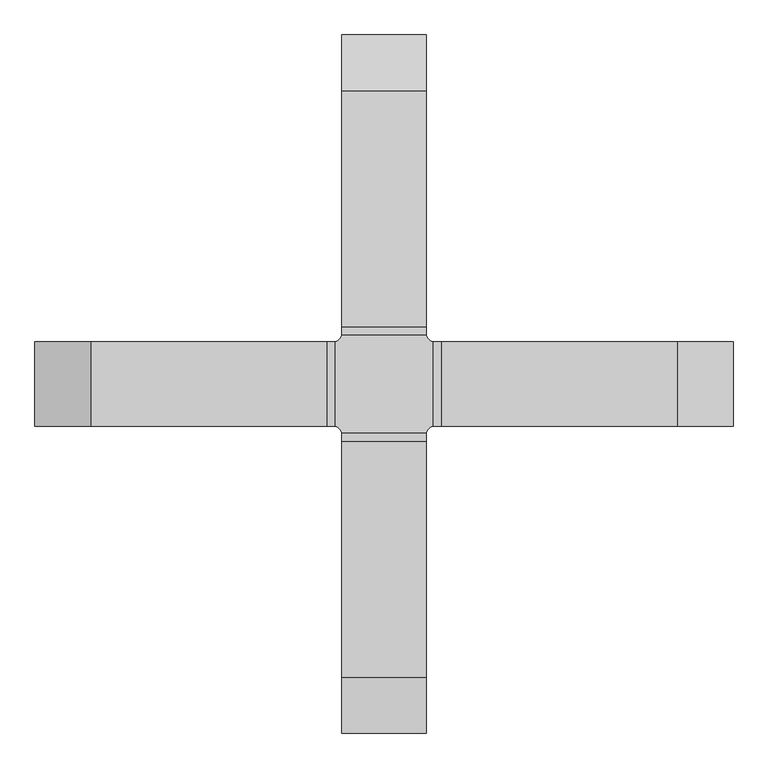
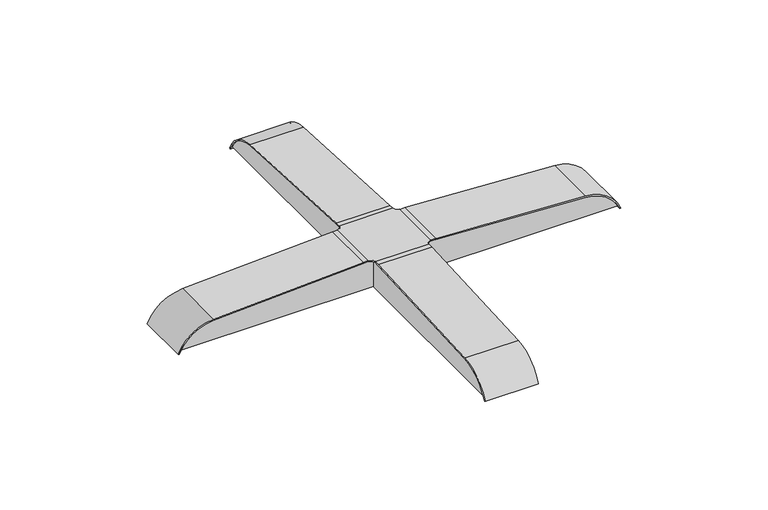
"""IFC4 building model written with IfcOpenShell, lengths in millimetres: furniture geometry."""

from ifc_helpers import new_model, si_unit, point, frame, origin, place, context, project, spatial, polyline, circle_curve, ellipse_curve, trimmed, source, transform, mapped, element, save
from ifc_brep_helpers import plane_surface, cylinder_surface, revolved_surface, advanced_brep


def furniture_97fad042(model_context):
    return source(origin(), model_context, "Body", "AdvancedBrep", [
        advanced_brep(
        [(0.0, 468.1814543, 39.7002), (0.0, 459.9345457, 39.7002), (0.0, 464.058, 39.7002), (0.0, 468.1814543, 14.7574), (0.0, 459.9345457, 14.7574), (0.0, 472.0971, 14.7574), (0.0, 456.0189, 14.7574), (0.0, 472.0971, 10.2849279), (0.0, 456.0189, 10.2849279), (0.0, 482.0101589, 0.0), (0.0, 446.1058411, 0.0), (0.0, 446.1058411, 3.5984853), (0.0, 482.0101589, 3.5984853), (0.0, 464.058, 0.0)],
        [
            (0, 1, circle_curve(frame((0.0, 464.058, 39.7002), z_axis=(0.0, 0.0, 1.0), x_axis=(0.0, -1.0, 0.0)), 4.1234543)),
            (1, 2),
            (2, 0),
            (1, 0, circle_curve(frame((0.0, 464.058, 39.7002), z_axis=(0.0, 0.0, 1.0), x_axis=(0.0, -1.0, 0.0)), 4.1234543)),
            (3, 4, circle_curve(frame((0.0, 464.058, 14.7574), z_axis=(0.0, 0.0, 1.0), x_axis=(0.0, -1.0, 0.0)), 4.1234543)),
            (4, 1),
            (0, 3),
            (4, 3, circle_curve(frame((0.0, 464.058, 14.7574), z_axis=(0.0, 0.0, 1.0), x_axis=(0.0, -1.0, 0.0)), 4.1234543)),
            (5, 6, circle_curve(frame((0.0, 464.058, 14.7574), z_axis=(0.0, 0.0, 1.0), x_axis=(0.0, -1.0, 0.0)), 8.0391)),
            (6, 4),
            (3, 5),
            (6, 5, circle_curve(frame((0.0, 464.058, 14.7574), z_axis=(0.0, 0.0, 1.0), x_axis=(0.0, -1.0, 0.0)), 8.0391)),
            (7, 8, circle_curve(frame((0.0, 464.058, 10.2849279), z_axis=(0.0, 0.0, 1.0), x_axis=(0.0, -1.0, 0.0)), 8.0391)),
            (8, 6),
            (5, 7),
            (8, 7, circle_curve(frame((0.0, 464.058, 10.2849279), z_axis=(0.0, 0.0, 1.0), x_axis=(0.0, -1.0, 0.0)), 8.0391)),
            (9, 10, circle_curve(frame((0.0, 464.058, 0.0), z_axis=(0.0, 0.0, 1.0), x_axis=(0.0, -1.0, 0.0)), 17.9521589)),
            (10, 11),
            (11, 12, circle_curve(frame((0.0, 464.058, 3.5984853), z_axis=(0.0, 0.0, -1.0), x_axis=(0.0, -1.0, 0.0)), 17.9521589)),
            (12, 9),
            (10, 9, circle_curve(frame((0.0, 464.058, 0.0), z_axis=(0.0, 0.0, 1.0), x_axis=(0.0, -1.0, 0.0)), 17.9521589)),
            (12, 11, circle_curve(frame((0.0, 464.058, 3.5984853), z_axis=(0.0, 0.0, -1.0), x_axis=(0.0, -1.0, 0.0)), 17.9521589)),
            (13, 10),
            (9, 13),
            (11, 8, circle_curve(frame((0.0, 446.538795, 13.6481832), z_axis=(1.0, 0.0, 0.0), x_axis=(0.0, -1.0, 0.0)), 10.0590197)),
            (7, 12, circle_curve(frame((0.0, 481.577205, 13.6481832), z_axis=(1.0, 0.0, 0.0), x_axis=(0.0, 1.0, 0.0)), 10.0590197)),
        ],
        [
            plane_surface(frame((0.0, 464.058, 39.7002), z_axis=(0.0, 0.0, 1.0), x_axis=(0.0, -1.0, 0.0))),
            cylinder_surface(frame((0.0, 464.058, 39.7002), z_axis=(0.0, 0.0, -1.0), x_axis=(0.0, -1.0, 0.0)), 4.1234543),
            plane_surface(frame((0.0, 464.058, 14.7574), z_axis=(0.0, 0.0, 1.0), x_axis=(0.0, -1.0, 0.0))),
            cylinder_surface(frame((0.0, 464.058, 39.7002), z_axis=(0.0, 0.0, -1.0), x_axis=(0.0, -1.0, 0.0)), 8.0391),
            cylinder_surface(frame((0.0, 464.058, 39.7002), z_axis=(0.0, 0.0, -1.0), x_axis=(0.0, -1.0, 0.0)), 17.9521589),
            plane_surface(frame((0.0, 464.058, 0.0), z_axis=(0.0, 0.0, -1.0), x_axis=(0.0, -1.0, 0.0))),
            revolved_surface(trimmed(ellipse_curve(frame((0.0, 446.538795, 13.6481832), z_axis=(-1.0, 0.0, 0.0), x_axis=(0.0, -1.0, 0.0)), 10.0590197, 10.0590197), [point((0.0, 456.0189, 10.2849279))], [point((0.0, 446.1058411, 3.5984853))], True, "CARTESIAN"), (0.0, 464.058, 39.7002), (0.0, 0.0, -1.0)),
        ],
        [
            (0, [[1, 2, 3]]),
            (0, [[4, -3, -2]]),
            (1, [[5, 6, -1, 7]]),
            (1, [[8, -7, -4, -6]]),
            (2, [[9, 10, -5, 11]]),
            (2, [[12, -11, -8, -10]]),
            (3, [[13, 14, -9, 15]]),
            (3, [[16, -15, -12, -14]]),
            (4, [[17, 18, 19, 20]]),
            (4, [[21, -20, 22, -18]]),
            (5, [[23, -17, 24]]),
            (5, [[-24, -21, -23]]),
            (6, [[-19, 25, -13, 26]]),
            (6, [[-22, -26, -16, -25]]),
        ],
    ),
        advanced_brep(
        [(60.325, 420.6378786, 74.5825817), (60.325, 498.1978983, 20.2927555), (60.325, 500.6635132, 21.3402677), (60.325, 420.7780817, 77.2578166), (60.325, 82.318215, 94.9957465), (60.325, 70.2140123, 95.3127062), (60.325, 70.2140123, 92.6338), (60.325, 82.1780119, 92.3205116), (60.325, -420.6378786, 74.5825817), (60.325, -82.1780119, 92.3205116), (60.325, -70.2140123, 92.6338), (60.325, -70.2140123, 95.3127062), (60.325, -82.318215, 94.9957465), (60.325, -420.7780817, 77.2578166), (60.325, -500.6635132, 21.3402677), (60.325, -498.1978983, 20.2927555), (-60.325, 420.6378786, 74.5825817), (-60.325, 82.1780119, 92.3205116), (-60.325, 70.2140123, 92.6338), (-60.325, 70.2140123, 95.3127062), (-60.325, 82.318215, 94.9957465), (-60.325, 420.7780817, 77.2578166), (-60.325, 500.6635132, 21.3402677), (-60.325, 498.1978983, 20.2927555), (-60.325, -420.6378786, 74.5825817), (-60.325, -498.1978983, 20.2927555), (-60.325, -500.6635132, 21.3402677), (-60.325, -420.7780817, 77.2578166), (-60.325, -82.318215, 94.9957465), (-60.325, -70.2140123, 95.3127062), (-60.325, -70.2140123, 92.6338), (-60.325, -82.1780119, 92.3205116), (-70.2648498, -60.6285662, 95.3127062), (-60.639995, -70.2140123, 95.3127062), (60.639995, -70.2140123, 95.3127062), (70.1631748, -60.6516433, 95.3127062), (70.1631748, -60.325, 95.3127062), (70.1631748, 60.325, 95.3127062), (70.1631748, 60.6516433, 95.3127062), (60.639995, 70.2140123, 95.3127062), (-60.639995, 70.2140123, 95.3127062), (-70.2648498, 60.6285662, 95.3127062), (-70.2648498, 60.325, 95.3127062), (-70.2648498, -60.325, 95.3127062), (-70.2648498, 60.6285662, 92.6338), (-60.639995, 70.2140123, 92.6338), (60.639995, 70.2140123, 92.6338), (70.1631748, 60.6516433, 92.6338), (70.1631748, 60.325, 92.6338), (70.1631748, -60.325, 92.6338), (70.1631748, -60.6516433, 92.6338), (60.639995, -70.2140123, 92.6338), (-60.639995, -70.2140123, 92.6338), (-70.2648498, -60.6285662, 92.6338), (-70.2648498, -60.325, 92.6338), (-70.2648498, 60.325, 92.6338), (-420.688716, 60.325, 74.5825817), (-498.2487358, 60.325, 20.2927555), (-500.7143507, 60.325, 21.3402677), (-420.8289192, 60.325, 77.2578166), (-82.3690525, 60.325, 94.9957465), (-82.2288494, 60.325, 92.3205116), (420.5870411, 60.325, 74.5825817), (82.1271744, 60.325, 92.3205116), (82.2673775, 60.325, 94.9957465), (420.7272442, 60.325, 77.2578166), (500.6126758, 60.325, 21.3402677), (498.1470609, 60.325, 20.2927555), (-420.688716, -60.325, 74.5825817), (-82.2288494, -60.325, 92.3205116), (-82.3690525, -60.325, 94.9957465), (-420.8289192, -60.325, 77.2578166), (-500.7143507, -60.325, 21.3402677), (-498.2487358, -60.325, 20.2927555), (420.5870411, -60.325, 74.5825817), (498.1470609, -60.325, 20.2927555), (500.6126758, -60.325, 21.3402677), (420.7272442, -60.325, 77.2578166), (82.2673775, -60.325, 94.9957465), (82.1271744, -60.325, 92.3205116)],
        [
            (0, 1, circle_curve(frame((60.325, 415.9616501, -14.6451736), z_axis=(-1.0, 0.0, 0.0), x_axis=(0.0, -1.0, 0.0)), 89.3502066)),
            (1, 2),
            (2, 3, circle_curve(frame((60.325, 415.9616501, -14.6451736), z_axis=(1.0, 0.0, 0.0), x_axis=(0.0, -1.0, 0.0)), 92.0291128)),
            (3, 4),
            (4, 5, circle_curve(frame((60.325, 70.2140123, -135.9662), z_axis=(1.0, 0.0, 0.0), x_axis=(0.0, -1.0, 0.0)), 231.2789063)),
            (5, 6),
            (6, 7, circle_curve(frame((60.325, 70.2140123, -135.9662), z_axis=(-1.0, 0.0, 0.0), x_axis=(0.0, -1.0, 0.0)), 228.6)),
            (7, 0),
            (8, 9),
            (9, 10, circle_curve(frame((60.325, -70.2140123, -135.9662), z_axis=(-1.0, 0.0, 0.0), x_axis=(0.0, 1.0, 0.0)), 228.6)),
            (10, 11),
            (11, 12, circle_curve(frame((60.325, -70.2140123, -135.9662), z_axis=(1.0, 0.0, 0.0), x_axis=(0.0, 1.0, 0.0)), 231.2789063)),
            (12, 13),
            (13, 14, circle_curve(frame((60.325, -415.9616501, -14.6451736), z_axis=(1.0, 0.0, 0.0), x_axis=(0.0, 1.0, 0.0)), 92.0291128)),
            (14, 15),
            (15, 8, circle_curve(frame((60.325, -415.9616501, -14.6451736), z_axis=(-1.0, 0.0, 0.0), x_axis=(0.0, 1.0, 0.0)), 89.3502066)),
            (16, 17),
            (17, 18, circle_curve(frame((-60.325, 70.2140123, -135.9662), z_axis=(1.0, 0.0, 0.0), x_axis=(0.0, -1.0, 0.0)), 228.6)),
            (18, 19),
            (19, 20, circle_curve(frame((-60.325, 70.2140123, -135.9662), z_axis=(-1.0, 0.0, 0.0), x_axis=(0.0, -1.0, 0.0)), 231.2789063)),
            (20, 21),
            (21, 22, circle_curve(frame((-60.325, 415.9616501, -14.6451736), z_axis=(-1.0, 0.0, 0.0), x_axis=(0.0, -1.0, 0.0)), 92.0291128)),
            (22, 23),
            (23, 16, circle_curve(frame((-60.325, 415.9616501, -14.6451736), z_axis=(1.0, 0.0, 0.0), x_axis=(0.0, -1.0, 0.0)), 89.3502066)),
            (24, 25, circle_curve(frame((-60.325, -415.9616501, -14.6451736), z_axis=(1.0, 0.0, 0.0), x_axis=(0.0, 1.0, 0.0)), 89.3502066)),
            (25, 26),
            (26, 27, circle_curve(frame((-60.325, -415.9616501, -14.6451736), z_axis=(-1.0, 0.0, 0.0), x_axis=(0.0, 1.0, 0.0)), 92.0291128)),
            (27, 28),
            (28, 29, circle_curve(frame((-60.325, -70.2140123, -135.9662), z_axis=(-1.0, 0.0, 0.0), x_axis=(0.0, 1.0, 0.0)), 231.2789063)),
            (29, 30),
            (30, 31, circle_curve(frame((-60.325, -70.2140123, -135.9662), z_axis=(1.0, 0.0, 0.0), x_axis=(0.0, 1.0, 0.0)), 228.6)),
            (31, 24),
            (7, 17),
            (16, 0),
            (23, 1),
            (22, 2),
            (32, 33, circle_curve(frame((-73.025, -73.025, 95.3127062), z_axis=(0.0, 0.0, -1.0), x_axis=(1.0, 0.0, 0.0)), 12.7)),
            (33, 29),
            (29, 11),
            (11, 34),
            (34, 35, circle_curve(frame((73.025, -73.025, 95.3127062), z_axis=(0.0, 0.0, -1.0), x_axis=(1.0, 0.0, 0.0)), 12.7)),
            (35, 36),
            (36, 37),
            (37, 38),
            (38, 39, circle_curve(frame((73.025, 73.025, 95.3127062), z_axis=(0.0, 0.0, -1.0), x_axis=(1.0, 0.0, 0.0)), 12.7)),
            (39, 5),
            (5, 19),
            (19, 40),
            (40, 41, circle_curve(frame((-73.025, 73.025, 95.3127062), z_axis=(0.0, 0.0, -1.0), x_axis=(1.0, 0.0, 0.0)), 12.7)),
            (41, 42),
            (42, 43),
            (43, 32),
            (44, 45, circle_curve(frame((-73.025, 73.025, 92.6338), z_axis=(0.0, 0.0, 1.0), x_axis=(1.0, 0.0, 0.0)), 12.7)),
            (45, 18),
            (18, 6),
            (6, 46),
            (46, 47, circle_curve(frame((73.025, 73.025, 92.6338), z_axis=(0.0, 0.0, 1.0), x_axis=(1.0, 0.0, 0.0)), 12.7)),
            (47, 48),
            (48, 49),
            (49, 50),
            (50, 51, circle_curve(frame((73.025, -73.025, 92.6338), z_axis=(0.0, 0.0, 1.0), x_axis=(1.0, 0.0, 0.0)), 12.7)),
            (51, 10),
            (10, 30),
            (30, 52),
            (52, 53, circle_curve(frame((-73.025, -73.025, 92.6338), z_axis=(0.0, 0.0, 1.0), x_axis=(1.0, 0.0, 0.0)), 12.7)),
            (53, 54),
            (54, 55),
            (55, 44),
            (32, 53),
            (52, 33),
            (34, 51),
            (50, 35),
            (38, 47),
            (46, 39),
            (40, 45),
            (44, 41),
            (21, 3),
            (20, 4),
            (8, 24),
            (31, 9),
            (28, 12),
            (27, 13),
            (26, 14),
            (25, 15),
            (43, 54),
            (55, 42),
            (49, 36),
            (37, 48),
            (56, 57, circle_curve(frame((-416.0124875, 60.325, -14.6451736), z_axis=(0.0, -1.0, 0.0), x_axis=(1.0, 0.0, 0.0)), 89.3502066)),
            (57, 58),
            (58, 59, circle_curve(frame((-416.0124875, 60.325, -14.6451736), z_axis=(0.0, 1.0, 0.0), x_axis=(1.0, 0.0, 0.0)), 92.0291128)),
            (59, 60),
            (60, 42, circle_curve(frame((-70.2648498, 60.325, -135.9662), z_axis=(0.0, 1.0, 0.0), x_axis=(1.0, 0.0, 0.0)), 231.2789063)),
            (55, 61, circle_curve(frame((-70.2648498, 60.325, -135.9662), z_axis=(0.0, -1.0, 0.0), x_axis=(1.0, 0.0, 0.0)), 228.6)),
            (61, 56),
            (62, 63),
            (63, 48, circle_curve(frame((70.1631748, 60.325, -135.9662), z_axis=(0.0, -1.0, 0.0), x_axis=(-1.0, 0.0, 0.0)), 228.6)),
            (37, 64, circle_curve(frame((70.1631748, 60.325, -135.9662), z_axis=(0.0, 1.0, 0.0), x_axis=(-1.0, 0.0, 0.0)), 231.2789063)),
            (64, 65),
            (65, 66, circle_curve(frame((415.9108126, 60.325, -14.6451736), z_axis=(0.0, 1.0, 0.0), x_axis=(-1.0, 0.0, 0.0)), 92.0291128)),
            (66, 67),
            (67, 62, circle_curve(frame((415.9108126, 60.325, -14.6451736), z_axis=(0.0, -1.0, 0.0), x_axis=(-1.0, 0.0, 0.0)), 89.3502066)),
            (68, 69),
            (69, 54, circle_curve(frame((-70.2648498, -60.325, -135.9662), z_axis=(0.0, 1.0, 0.0), x_axis=(1.0, 0.0, 0.0)), 228.6)),
            (43, 70, circle_curve(frame((-70.2648498, -60.325, -135.9662), z_axis=(0.0, -1.0, 0.0), x_axis=(1.0, 0.0, 0.0)), 231.2789063)),
            (70, 71),
            (71, 72, circle_curve(frame((-416.0124875, -60.325, -14.6451736), z_axis=(0.0, -1.0, 0.0), x_axis=(1.0, 0.0, 0.0)), 92.0291128)),
            (72, 73),
            (73, 68, circle_curve(frame((-416.0124875, -60.325, -14.6451736), z_axis=(0.0, 1.0, 0.0), x_axis=(1.0, 0.0, 0.0)), 89.3502066)),
            (74, 75, circle_curve(frame((415.9108126, -60.325, -14.6451736), z_axis=(0.0, 1.0, 0.0), x_axis=(-1.0, 0.0, 0.0)), 89.3502066)),
            (75, 76),
            (76, 77, circle_curve(frame((415.9108126, -60.325, -14.6451736), z_axis=(0.0, -1.0, 0.0), x_axis=(-1.0, 0.0, 0.0)), 92.0291128)),
            (77, 78),
            (78, 36, circle_curve(frame((70.1631748, -60.325, -135.9662), z_axis=(0.0, -1.0, 0.0), x_axis=(-1.0, 0.0, 0.0)), 231.2789063)),
            (49, 79, circle_curve(frame((70.1631748, -60.325, -135.9662), z_axis=(0.0, 1.0, 0.0), x_axis=(-1.0, 0.0, 0.0)), 228.6)),
            (79, 74),
            (56, 68),
            (73, 57),
            (72, 58),
            (71, 59),
            (70, 60),
            (69, 61),
            (62, 74),
            (79, 63),
            (78, 64),
            (77, 65),
            (76, 66),
            (75, 67),
        ],
        [
            plane_surface(frame((60.325, 326.6114435, -14.6451736), z_axis=(1.0, 0.0, 0.0), x_axis=(0.0, 0.0, 1.0))),
            plane_surface(frame((-60.325, 326.6114435, -14.6451736), z_axis=(-1.0, 0.0, 0.0), x_axis=(0.0, 0.0, -1.0))),
            plane_surface(frame((60.325, 82.1780119, 92.3205116), z_axis=(0.0, -0.05233595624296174, -0.998629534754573), x_axis=(-1.0, 0.0, 0.0))),
            revolved_surface(polyline([(-60.325, 326.61144349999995, -14.6451736), (60.325, 326.61144349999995, -14.6451736)]), (-60.325, 415.9616501, -14.6451736), (-1.0, 0.0, 0.0)),
            plane_surface(frame((60.325, 498.1978983, 20.2927555), z_axis=(0.0, 0.3910223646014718, -0.9203811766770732), x_axis=(-1.0, 0.0, 0.0))),
            plane_surface(frame((-70.2648498, -60.325, 95.3127062), z_axis=(0.0, 0.0, 1.0), x_axis=(0.0, -1.0, 0.0))),
            plane_surface(frame((-70.2648498, -60.325, 92.6338), z_axis=(0.0, 0.0, -1.0), x_axis=(0.0, 1.0, 0.0))),
            revolved_surface(polyline([(-60.325, -73.025, 92.6338), (-60.325, -73.025, 95.3127062)]), (-73.025, -73.025, 92.6338), (0.0, 0.0, -1.0)),
            revolved_surface(polyline([(85.72500000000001, -73.025, 92.6338), (85.72500000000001, -73.025, 95.3127062)]), (73.025, -73.025, 92.6338), (0.0, 0.0, -1.0)),
            revolved_surface(polyline([(85.72500000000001, 73.025, 92.6338), (85.72500000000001, 73.025, 95.3127062)]), (73.025, 73.025, 92.6338), (0.0, 0.0, -1.0)),
            revolved_surface(polyline([(-60.325, 73.025, 92.6338), (-60.325, 73.025, 95.3127062)]), (-73.025, 73.025, 92.6338), (0.0, 0.0, -1.0)),
            cylinder_surface(frame((-60.325, 415.9616501, -14.6451736), z_axis=(1.0, 0.0, 0.0), x_axis=(0.0, -1.0, 0.0)), 92.0291128),
            plane_surface(frame((60.325, 420.7780817, 77.2578166), z_axis=(0.0, 0.05233595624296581, 0.9986295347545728), x_axis=(-1.0, 0.0, 0.0))),
            cylinder_surface(frame((-60.325, 70.2140123, -135.9662), z_axis=(1.0, 0.0, 0.0), x_axis=(0.0, -1.0, 0.0)), 231.2789063),
            revolved_surface(polyline([(-60.325, -158.3859877, -135.9662), (60.325, -158.3859877, -135.9662)]), (-60.325, 70.2140123, -135.9662), (-1.0, 0.0, 0.0)),
            plane_surface(frame((60.325, -420.6378786, 74.5825817), z_axis=(0.0, 0.05233595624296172, -0.998629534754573), x_axis=(-1.0, 0.0, 0.0))),
            revolved_surface(polyline([(-60.325, 158.3859877, -135.9662), (60.325, 158.3859877, -135.9662)]), (0.0, -70.2140123, -135.9662), (-1.0, 0.0, 0.0)),
            cylinder_surface(frame((0.0, -70.2140123, -135.9662), z_axis=(1.0, 0.0, 0.0), x_axis=(0.0, 1.0, 0.0)), 231.2789063),
            plane_surface(frame((60.325, -82.318215, 94.9957465), z_axis=(0.0, -0.05233595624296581, 0.9986295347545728), x_axis=(-1.0, 0.0, 0.0))),
            cylinder_surface(frame((0.0, -415.9616501, -14.6451736), z_axis=(1.0, 0.0, 0.0), x_axis=(0.0, 1.0, 0.0)), 92.0291128),
            plane_surface(frame((60.325, -500.6635132, 21.3402677), z_axis=(0.0, -0.3910223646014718, -0.9203811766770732), x_axis=(-1.0, 0.0, 0.0))),
            revolved_surface(polyline([(-60.325, -326.61144349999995, -14.6451736), (60.325, -326.61144349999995, -14.6451736)]), (0.0, -415.9616501, -14.6451736), (-1.0, 0.0, 0.0)),
            plane_surface(frame((-70.2648498, 60.6285662, 95.3127062), z_axis=(-1.0, 0.0, 0.0), x_axis=(0.0, 0.0, -1.0))),
            plane_surface(frame((-60.639995, -70.2140123, 95.3127062), z_axis=(0.0, -1.0, 0.0), x_axis=(0.0, 0.0, -1.0))),
            plane_surface(frame((70.1631748, -60.6516433, 95.3127062), z_axis=(1.0, 0.0, 0.0), x_axis=(0.0, 0.0, -1.0))),
            plane_surface(frame((60.639995, 70.2140123, 95.3127062), z_axis=(0.0, 1.0, 0.0), x_axis=(0.0, 0.0, -1.0))),
            plane_surface(frame((-326.662281, 60.325, -14.6451736), z_axis=(0.0, 1.0, 0.0), x_axis=(0.0, 0.0, 1.0))),
            plane_surface(frame((-326.662281, -60.325, -14.6451736), z_axis=(0.0, -1.0, 0.0), x_axis=(0.0, 0.0, -1.0))),
            revolved_surface(polyline([(-326.66228090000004, -60.325, -14.6451736), (-326.66228090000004, 60.325, -14.6451736)]), (-416.0124875, -60.325, -14.6451736), (0.0, -1.0, 0.0)),
            plane_surface(frame((-498.2487358, 60.325, 20.2927555), z_axis=(-0.3910223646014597, 0.0, -0.9203811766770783), x_axis=(0.0, -1.0, 0.0))),
            cylinder_surface(frame((-416.0124875, -60.325, -14.6451736), z_axis=(0.0, 1.0, 0.0), x_axis=(1.0, 0.0, 0.0)), 92.0291128),
            plane_surface(frame((-420.8289192, 60.325, 77.2578166), z_axis=(-0.05233595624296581, 0.0, 0.9986295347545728), x_axis=(0.0, -1.0, 0.0))),
            cylinder_surface(frame((-70.2648498, -60.325, -135.9662), z_axis=(0.0, 1.0, 0.0), x_axis=(1.0, 0.0, 0.0)), 231.2789063),
            revolved_surface(polyline([(158.3351502, -60.325, -135.9662), (158.3351502, 60.325, -135.9662)]), (-70.2648498, -60.325, -135.9662), (0.0, -1.0, 0.0)),
            plane_surface(frame((-82.2288494, 60.325, 92.3205116), z_axis=(0.05233595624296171, 0.0, -0.998629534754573), x_axis=(0.0, -1.0, 0.0))),
            plane_surface(frame((420.5870411, 60.325, 74.5825817), z_axis=(-0.0523359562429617, 0.0, -0.998629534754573), x_axis=(0.0, -1.0, 0.0))),
            revolved_surface(polyline([(-158.4368252, -60.325, -135.9662), (-158.4368252, 60.325, -135.9662)]), (70.1631748, 0.0, -135.9662), (0.0, -1.0, 0.0)),
            cylinder_surface(frame((70.1631748, 0.0, -135.9662), z_axis=(0.0, 1.0, 0.0), x_axis=(-1.0, 0.0, 0.0)), 231.2789063),
            plane_surface(frame((82.2673775, 60.325, 94.9957465), z_axis=(0.05233595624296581, 0.0, 0.9986295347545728), x_axis=(0.0, -1.0, 0.0))),
            cylinder_surface(frame((415.9108126, 0.0, -14.6451736), z_axis=(0.0, 1.0, 0.0), x_axis=(-1.0, 0.0, 0.0)), 92.0291128),
            plane_surface(frame((500.6126758, 60.325, 21.3402677), z_axis=(0.3910223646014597, 0.0, -0.9203811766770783), x_axis=(0.0, -1.0, 0.0))),
            revolved_surface(polyline([(326.560606, -60.325, -14.6451736), (326.560606, 60.325, -14.6451736)]), (415.9108126, 0.0, -14.6451736), (0.0, -1.0, 0.0)),
        ],
        [
            (0, [[1, 2, 3, 4, 5, 6, 7, 8]]),
            (0, [[9, 10, 11, 12, 13, 14, 15, 16]]),
            (1, [[17, 18, 19, 20, 21, 22, 23, 24]]),
            (1, [[25, 26, 27, 28, 29, 30, 31, 32]]),
            (2, [[-8, 33, -17, 34]]),
            (3, [[-1, -34, -24, 35]]),
            (4, [[-2, -35, -23, 36]]),
            (5, [[37, 38, 39, 40, 41, 42, 43, 44, 45, 46, 47, 48, 49, 50, 51, 52]]),
            (6, [[53, 54, 55, 56, 57, 58, 59, 60, 61, 62, 63, 64, 65, 66, 67, 68]]),
            (7, [[-37, 69, -65, 70]]),
            (8, [[-41, 71, -61, 72]]),
            (9, [[-45, 73, -57, 74]]),
            (10, [[-49, 75, -53, 76]]),
            (11, [[-3, -36, -22, 77]]),
            (12, [[-4, -77, -21, 78]]),
            (13, [[-5, -78, -20, -47]]),
            (14, [[-7, -55, -18, -33]]),
            (15, [[-9, 79, -32, 80]]),
            (16, [[-10, -80, -31, -63]]),
            (17, [[-12, -39, -29, 81]]),
            (18, [[-13, -81, -28, 82]]),
            (19, [[-14, -82, -27, 83]]),
            (20, [[-15, -83, -26, 84]]),
            (21, [[-16, -84, -25, -79]]),
            (22, [[-69, -52, 85, -66]]),
            (22, [[-76, -68, 86, -50]]),
            (23, [[-70, -64, -30, -38]]),
            (23, [[-71, -40, -11, -62]]),
            (24, [[-72, -60, 87, -42]]),
            (24, [[-73, -44, 88, -58]]),
            (25, [[-74, -56, -6, -46]]),
            (25, [[-75, -48, -19, -54]]),
            (26, [[89, 90, 91, 92, 93, -86, 94, 95]]),
            (26, [[96, 97, -88, 98, 99, 100, 101, 102]]),
            (27, [[103, 104, -85, 105, 106, 107, 108, 109]]),
            (27, [[110, 111, 112, 113, 114, -87, 115, 116]]),
            (28, [[-89, 117, -109, 118]]),
            (29, [[-90, -118, -108, 119]]),
            (30, [[-91, -119, -107, 120]]),
            (31, [[-92, -120, -106, 121]]),
            (32, [[-93, -121, -105, -51]]),
            (33, [[-94, -67, -104, 122]]),
            (34, [[-95, -122, -103, -117]]),
            (35, [[-96, 123, -116, 124]]),
            (36, [[-97, -124, -115, -59]]),
            (37, [[-98, -43, -114, 125]]),
            (38, [[-99, -125, -113, 126]]),
            (39, [[-100, -126, -112, 127]]),
            (40, [[-101, -127, -111, 128]]),
            (41, [[-102, -128, -110, -123]]),
        ],
    ),
        advanced_brep(
        [(54.4710938, -493.593262, 28.6377062), (38.1, -493.593262, 28.6377062), (38.1, -493.593262, 25.9588), (57.15, -493.593262, 25.9588), (57.15, -493.593262, 29.590471), (54.4710938, -493.593262, 29.590471), (57.15, -57.15, 25.9588), (57.15, -57.15, 92.6338), (57.15, -70.2140123, 92.6338), (57.15, -82.1780119, 92.3205116), (57.15, -420.6378786, 74.5825817), (54.4710938, -54.4710937, 28.6377062), (54.4710938, -420.6378786, 74.5825817), (54.4710938, -82.1780119, 92.3205116), (54.4710938, -70.2140123, 92.6338), (54.4710938, -54.4710937, 92.6338), (493.6110748, -54.4710938, 28.6377062), (493.6110748, -38.1, 28.6377062), (38.1, -38.1, 28.6377062), (38.1, -38.1, 25.9588), (493.6110748, -38.1, 25.9588), (493.6110748, -57.15, 25.9588), (493.6110748, -54.4710938, 29.5591956), (493.6110748, -57.15, 29.5591956), (420.6378786, -57.15, 74.5825817), (82.1780119, -57.15, 92.3205116), (70.2140123, -57.15, 92.6338), (70.2140123, -54.4710937, 92.6338), (82.1780119, -54.4710937, 92.3205116), (420.6378786, -54.4710938, 74.5825817)],
        [
            (0, 1),
            (1, 2),
            (2, 3),
            (3, 4),
            (4, 5),
            (5, 0),
            (3, 6),
            (6, 7),
            (7, 8),
            (8, 9, circle_curve(frame((57.15, -70.2140123, -135.9662), z_axis=(1.0, 0.0, 0.0), x_axis=(0.0, 1.0, 0.0)), 228.6)),
            (9, 10),
            (10, 4, circle_curve(frame((57.15, -415.9616501, -14.6451736), z_axis=(1.0, 0.0, 0.0), x_axis=(0.0, 1.0, 0.0)), 89.3502066)),
            (11, 0),
            (5, 12, circle_curve(frame((54.4710938, -415.9616501, -14.6451736), z_axis=(-1.0, 0.0, 0.0), x_axis=(0.0, 1.0, 0.0)), 89.3502066)),
            (12, 13),
            (13, 14, circle_curve(frame((54.4710938, -70.2140123, -135.9662), z_axis=(-1.0, 0.0, 0.0), x_axis=(0.0, 1.0, 0.0)), 228.6)),
            (14, 15),
            (15, 11),
            (11, 16),
            (16, 17),
            (17, 18),
            (18, 1),
            (18, 19),
            (19, 2),
            (19, 20),
            (20, 21),
            (21, 6),
            (16, 22),
            (22, 23),
            (23, 21),
            (20, 17),
            (23, 24, circle_curve(frame((415.9616501, -57.15, -14.6451736), z_axis=(0.0, -1.0, 0.0), x_axis=(-1.0, 0.0, 0.0)), 89.3502066)),
            (24, 25),
            (25, 26, circle_curve(frame((70.2140123, -57.15, -135.9662), z_axis=(0.0, -1.0, 0.0), x_axis=(-1.0, 0.0, 0.0)), 228.6)),
            (26, 7),
            (15, 27),
            (27, 28, circle_curve(frame((70.2140123, -54.4710937, -135.9662), z_axis=(0.0, 1.0, 0.0), x_axis=(-1.0, 0.0, 0.0)), 228.6)),
            (28, 29),
            (29, 22, circle_curve(frame((415.9616501, -54.4710938, -14.6451736), z_axis=(0.0, 1.0, 0.0), x_axis=(-1.0, 0.0, 0.0)), 89.3502066)),
            (8, 14),
            (13, 9),
            (26, 27),
            (10, 12),
            (25, 28),
            (24, 29),
        ],
        [
            plane_surface(frame((57.15, -493.593262, 0.0), z_axis=(0.0, -1.0, 0.0), x_axis=(0.0, 0.0, 1.0))),
            plane_surface(frame((57.15, -493.593262, 25.9588), z_axis=(1.0, 0.0, 0.0), x_axis=(0.0, 1.0, 0.0))),
            plane_surface(frame((54.4710938, -493.593262, 95.01505), z_axis=(-1.0, 0.0, 0.0), x_axis=(0.0, 1.0, 0.0))),
            plane_surface(frame((54.4710938, -493.593262, 28.6377062), z_axis=(0.0, 0.0, 1.0), x_axis=(0.0, 1.0, 0.0))),
            plane_surface(frame((38.1, -493.593262, 28.6377062), z_axis=(-1.0, 0.0, 0.0), x_axis=(0.0, 1.0, 0.0))),
            plane_surface(frame((38.1, -493.593262, 25.9588), z_axis=(0.0, 0.0, -1.0), x_axis=(0.0, 1.0, 0.0))),
            plane_surface(frame((493.6110748, -57.15, 0.0), z_axis=(1.0, 0.0, 0.0), x_axis=(0.0, 0.0, 1.0))),
            plane_surface(frame((57.15, -57.15, 25.9588), z_axis=(0.0, -1.0, 0.0), x_axis=(1.0, 0.0, 0.0))),
            plane_surface(frame((54.4710938, -54.4710937, 95.01505), z_axis=(0.0, 1.0, 0.0), x_axis=(1.0, 0.0, 0.0))),
            plane_surface(frame((38.1, -38.1, 28.6377062), z_axis=(0.0, 1.0, 0.0), x_axis=(1.0, 0.0, 0.0))),
            cylinder_surface(frame((101.5819282, -70.2140123, -135.9662), z_axis=(1.0, 0.0, 0.0), x_axis=(0.0, 1.0, 0.0)), 228.6),
            plane_surface(frame((-95.25, 70.2140123, 92.6338), z_axis=(0.0, 0.0, 1.0), x_axis=(1.0, 0.0, 0.0))),
            cylinder_surface(frame((101.5819282, -415.9616501, -14.6451736), z_axis=(1.0, 0.0, 0.0), x_axis=(0.0, 1.0, 0.0)), 89.3502066),
            plane_surface(frame((-95.25, -82.1780119, 92.3205116), z_axis=(0.0, -0.052335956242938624, 0.9986295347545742), x_axis=(1.0, 0.0, 0.0))),
            cylinder_surface(frame((70.2140123, 101.5819282, -135.9662), z_axis=(0.0, 1.0, 0.0), x_axis=(-1.0, 0.0, 0.0)), 228.6),
            plane_surface(frame((82.1780119, -95.25, 92.3205116), z_axis=(0.05233595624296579, 0.0, 0.9986295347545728), x_axis=(0.0, 1.0, 0.0))),
            cylinder_surface(frame((415.9616501, 101.5819282, -14.6451736), z_axis=(0.0, 1.0, 0.0), x_axis=(-1.0, 0.0, 0.0)), 89.3502066),
        ],
        [
            (0, [[1, 2, 3, 4, 5, 6]]),
            (1, [[7, 8, 9, 10, 11, 12, -4]]),
            (2, [[13, -6, 14, 15, 16, 17, 18]]),
            (3, [[-1, -13, 19, 20, 21, 22]]),
            (4, [[-2, -22, 23, 24]]),
            (5, [[-3, -24, 25, 26, 27, -7]]),
            (6, [[-20, 28, 29, 30, -26, 31]]),
            (7, [[-27, -30, 32, 33, 34, 35, -8]]),
            (8, [[-19, -18, 36, 37, 38, 39, -28]]),
            (9, [[-21, -31, -25, -23]]),
            (10, [[40, -16, 41, -10]]),
            (11, [[-40, -9, -35, 42, -36, -17]]),
            (12, [[43, -14, -5, -12]]),
            (13, [[-43, -11, -41, -15]]),
            (14, [[44, -37, -42, -34]]),
            (15, [[-44, -33, 45, -38]]),
            (16, [[-45, -32, -29, -39]]),
        ],
    ),
        advanced_brep(
        [(-57.15, -493.593262, 25.9588), (-38.1, -493.593262, 25.9588), (-38.1, -493.593262, 28.6377062), (-54.4710937, -493.593262, 28.6377062), (-54.4710937, -493.593262, 29.590471), (-57.15, -493.593262, 29.590471), (-57.15, -57.15, 25.9588), (-57.15, -420.6378786, 74.5825817), (-57.15, -82.1780119, 92.3205116), (-57.15, -70.2140123, 92.6338), (-57.15, -57.15, 92.6338), (-54.4710937, -54.4710937, 28.6377062), (-54.4710937, -54.4710937, 92.6338), (-54.4710937, -70.2140123, 92.6338), (-54.4710937, -82.1780119, 92.3205116), (-54.4710937, -420.6378786, 74.5825817), (-38.1, -38.1, 28.6377062), (-493.6110748, -38.1, 28.6377062), (-493.6110748, -54.4710938, 28.6377062), (-38.1, -38.1, 25.9588), (-493.6110748, -57.15, 25.9588), (-493.6110748, -38.1, 25.9588), (-493.6110748, -57.15, 29.5591956), (-493.6110748, -54.4710938, 29.5591956), (-70.2140123, -57.15, 92.6338), (-82.1780119, -57.15, 92.3205116), (-420.6378786, -57.15, 74.5825817), (-420.6378786, -54.4710938, 74.5825817), (-82.1780119, -54.4710937, 92.3205116), (-70.2140123, -54.4710937, 92.6338)],
        [
            (0, 1),
            (1, 2),
            (2, 3),
            (3, 4),
            (4, 5),
            (5, 0),
            (6, 0),
            (5, 7, circle_curve(frame((-57.15, -415.9616501, -14.6451736), z_axis=(-1.0, 0.0, 0.0), x_axis=(0.0, 1.0, 0.0)), 89.3502066)),
            (7, 8),
            (8, 9, circle_curve(frame((-57.15, -70.2140123, -135.9662), z_axis=(-1.0, 0.0, 0.0), x_axis=(0.0, 1.0, 0.0)), 228.6)),
            (9, 10),
            (10, 6),
            (3, 11),
            (11, 12),
            (12, 13),
            (13, 14, circle_curve(frame((-54.4710937, -70.2140123, -135.9662), z_axis=(1.0, 0.0, 0.0), x_axis=(0.0, 1.0, 0.0)), 228.6)),
            (14, 15),
            (15, 4, circle_curve(frame((-54.4710937, -415.9616501, -14.6451736), z_axis=(1.0, 0.0, 0.0), x_axis=(0.0, 1.0, 0.0)), 89.3502066)),
            (2, 16),
            (16, 17),
            (17, 18),
            (18, 11),
            (1, 19),
            (19, 16),
            (6, 20),
            (20, 21),
            (21, 19),
            (17, 21),
            (20, 22),
            (22, 23),
            (23, 18),
            (10, 24),
            (24, 25, circle_curve(frame((-70.2140123, -57.15, -135.9662), z_axis=(0.0, -1.0, 0.0), x_axis=(1.0, 0.0, 0.0)), 228.6)),
            (25, 26),
            (26, 22, circle_curve(frame((-415.9616501, -57.15, -14.6451736), z_axis=(0.0, -1.0, 0.0), x_axis=(1.0, 0.0, 0.0)), 89.3502066)),
            (23, 27, circle_curve(frame((-415.9616501, -54.4710938, -14.6451736), z_axis=(0.0, 1.0, 0.0), x_axis=(1.0, 0.0, 0.0)), 89.3502066)),
            (27, 28),
            (28, 29, circle_curve(frame((-70.2140123, -54.4710937, -135.9662), z_axis=(0.0, 1.0, 0.0), x_axis=(1.0, 0.0, 0.0)), 228.6)),
            (29, 12),
            (13, 9),
            (8, 14),
            (29, 24),
            (15, 7),
            (28, 25),
            (26, 27),
        ],
        [
            plane_surface(frame((-57.15, -493.593262, 0.0), z_axis=(0.0, -1.0, 0.0), x_axis=(0.0, 0.0, 1.0))),
            plane_surface(frame((-57.15, -493.593262, 95.01505), z_axis=(-1.0, 0.0, 0.0), x_axis=(0.0, 1.0, 0.0))),
            plane_surface(frame((-54.4710937, -493.593262, 28.6377062), z_axis=(1.0, 0.0, 0.0), x_axis=(0.0, 1.0, 0.0))),
            plane_surface(frame((-38.1, -493.593262, 28.6377062), z_axis=(0.0, 0.0, 1.0), x_axis=(0.0, 1.0, 0.0))),
            plane_surface(frame((-38.1, -493.593262, 25.9588), z_axis=(1.0, 0.0, 0.0), x_axis=(0.0, 1.0, 0.0))),
            plane_surface(frame((-57.15, -493.593262, 25.9588), z_axis=(0.0, 0.0, -1.0), x_axis=(0.0, 1.0, 0.0))),
            plane_surface(frame((-493.6110748, -57.15, 0.0), z_axis=(-1.0, 0.0, 0.0), x_axis=(0.0, 0.0, 1.0))),
            plane_surface(frame((-57.15, -57.15, 95.01505), z_axis=(0.0, -1.0, 0.0), x_axis=(-1.0, 0.0, 0.0))),
            plane_surface(frame((-54.4710937, -54.4710937, 28.6377062), z_axis=(0.0, 1.0, 0.0), x_axis=(-1.0, 0.0, 0.0))),
            plane_surface(frame((-38.1, -38.1, 25.9588), z_axis=(0.0, 1.0, 0.0), x_axis=(-1.0, 0.0, 0.0))),
            cylinder_surface(frame((101.5819282, -70.2140123, -135.9662), z_axis=(1.0, 0.0, 0.0), x_axis=(0.0, 1.0, 0.0)), 228.6),
            plane_surface(frame((-95.25, 70.2140123, 92.6338), z_axis=(0.0, 0.0, 1.0), x_axis=(1.0, 0.0, 0.0))),
            cylinder_surface(frame((101.5819282, -415.9616501, -14.6451736), z_axis=(1.0, 0.0, 0.0), x_axis=(0.0, 1.0, 0.0)), 89.3502066),
            plane_surface(frame((-95.25, -82.1780119, 92.3205116), z_axis=(0.0, -0.052335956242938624, 0.9986295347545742), x_axis=(1.0, 0.0, 0.0))),
            cylinder_surface(frame((-70.2140123, 101.5819282, -135.9662), z_axis=(0.0, 1.0, 0.0), x_axis=(1.0, 0.0, 0.0)), 228.6),
            cylinder_surface(frame((-415.9616501, 101.5819282, -14.6451736), z_axis=(0.0, 1.0, 0.0), x_axis=(1.0, 0.0, 0.0)), 89.3502066),
            plane_surface(frame((-420.6378786, -95.25, 74.5825817), z_axis=(-0.052335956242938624, 0.0, 0.9986295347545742), x_axis=(0.0, 1.0, 0.0))),
        ],
        [
            (0, [[1, 2, 3, 4, 5, 6]]),
            (1, [[7, -6, 8, 9, 10, 11, 12]]),
            (2, [[13, 14, 15, 16, 17, 18, -4]]),
            (3, [[-3, 19, 20, 21, 22, -13]]),
            (4, [[-2, 23, 24, -19]]),
            (5, [[-1, -7, 25, 26, 27, -23]]),
            (6, [[-21, 28, -26, 29, 30, 31]]),
            (7, [[-25, -12, 32, 33, 34, 35, -29]]),
            (8, [[-22, -31, 36, 37, 38, 39, -14]]),
            (9, [[-20, -24, -27, -28]]),
            (10, [[40, -10, 41, -16]]),
            (11, [[-40, -15, -39, 42, -32, -11]]),
            (12, [[43, -8, -5, -18]]),
            (13, [[-43, -17, -41, -9]]),
            (14, [[44, -33, -42, -38]]),
            (15, [[45, -36, -30, -35]]),
            (16, [[-44, -37, -45, -34]]),
        ],
    ),
        advanced_brep(
        [(57.15, 493.593262, 25.9588), (38.1, 493.593262, 25.9588), (38.1, 493.593262, 28.6377062), (54.4710938, 493.593262, 28.6377062), (54.4710938, 493.593262, 29.590471), (57.15, 493.593262, 29.590471), (57.15, 57.15, 25.9588), (57.15, 420.6378786, 74.5825817), (57.15, 82.1780119, 92.3205116), (57.15, 70.2140123, 92.6338), (57.15, 57.15, 92.6338), (54.4710938, 54.4710937, 28.6377062), (54.4710938, 54.4710937, 92.6338), (54.4710938, 70.2140123, 92.6338), (54.4710938, 82.1780119, 92.3205116), (54.4710938, 420.6378786, 74.5825817), (38.1, 38.1, 28.6377062), (493.6110748, 38.1, 28.6377062), (493.6110748, 54.4710938, 28.6377062), (38.1, 38.1, 25.9588), (493.6110748, 57.15, 25.9588), (493.6110748, 38.1, 25.9588), (493.6110748, 57.15, 29.5591956), (493.6110748, 54.4710938, 29.5591956), (70.2140123, 57.15, 92.6338), (82.1780119, 57.15, 92.3205116), (420.6378786, 57.15, 74.5825817), (420.6378786, 54.4710938, 74.5825817), (82.1780119, 54.4710937, 92.3205116), (70.2140123, 54.4710937, 92.6338)],
        [
            (0, 1),
            (1, 2),
            (2, 3),
            (3, 4),
            (4, 5),
            (5, 0),
            (6, 0),
            (5, 7, circle_curve(frame((57.15, 415.9616501, -14.6451736), z_axis=(1.0, 0.0, 0.0), x_axis=(0.0, -1.0, 0.0)), 89.3502066)),
            (7, 8),
            (8, 9, circle_curve(frame((57.15, 70.2140123, -135.9662), z_axis=(1.0, 0.0, 0.0), x_axis=(0.0, -1.0, 0.0)), 228.6)),
            (9, 10),
            (10, 6),
            (3, 11),
            (11, 12),
            (12, 13),
            (13, 14, circle_curve(frame((54.4710938, 70.2140123, -135.9662), z_axis=(-1.0, 0.0, 0.0), x_axis=(0.0, -1.0, 0.0)), 228.6)),
            (14, 15),
            (15, 4, circle_curve(frame((54.4710938, 415.9616501, -14.6451736), z_axis=(-1.0, 0.0, 0.0), x_axis=(0.0, -1.0, 0.0)), 89.3502066)),
            (2, 16),
            (16, 17),
            (17, 18),
            (18, 11),
            (1, 19),
            (19, 16),
            (6, 20),
            (20, 21),
            (21, 19),
            (17, 21),
            (20, 22),
            (22, 23),
            (23, 18),
            (10, 24),
            (24, 25, circle_curve(frame((70.2140123, 57.15, -135.9662), z_axis=(0.0, 1.0, 0.0), x_axis=(-1.0, 0.0, 0.0)), 228.6)),
            (25, 26),
            (26, 22, circle_curve(frame((415.9616501, 57.15, -14.6451736), z_axis=(0.0, 1.0, 0.0), x_axis=(-1.0, 0.0, 0.0)), 89.3502066)),
            (23, 27, circle_curve(frame((415.9616501, 54.4710938, -14.6451736), z_axis=(0.0, -1.0, 0.0), x_axis=(-1.0, 0.0, 0.0)), 89.3502066)),
            (27, 28),
            (28, 29, circle_curve(frame((70.2140123, 54.4710937, -135.9662), z_axis=(0.0, -1.0, 0.0), x_axis=(-1.0, 0.0, 0.0)), 228.6)),
            (29, 12),
            (9, 13),
            (29, 24),
            (8, 14),
            (7, 15),
            (28, 25),
            (27, 26),
        ],
        [
            plane_surface(frame((57.15, 493.593262, 0.0), z_axis=(0.0, 1.0, 0.0), x_axis=(0.0, 0.0, 1.0))),
            plane_surface(frame((57.15, 493.593262, 95.01505), z_axis=(1.0, 0.0, 0.0), x_axis=(0.0, -1.0, 0.0))),
            plane_surface(frame((54.4710938, 493.593262, 28.6377062), z_axis=(-1.0, 0.0, 0.0), x_axis=(0.0, -1.0, 0.0))),
            plane_surface(frame((38.1, 493.593262, 28.6377062), z_axis=(0.0, 0.0, 1.0), x_axis=(0.0, -1.0, 0.0))),
            plane_surface(frame((38.1, 493.593262, 25.9588), z_axis=(-1.0, 0.0, 0.0), x_axis=(0.0, -1.0, 0.0))),
            plane_surface(frame((57.15, 493.593262, 25.9588), z_axis=(0.0, 0.0, -1.0), x_axis=(0.0, -1.0, 0.0))),
            plane_surface(frame((493.6110748, 57.15, 0.0), z_axis=(1.0, 0.0, 0.0), x_axis=(0.0, 0.0, 1.0))),
            plane_surface(frame((57.15, 57.15, 95.01505), z_axis=(0.0, 1.0, 0.0), x_axis=(1.0, 0.0, 0.0))),
            plane_surface(frame((54.4710938, 54.4710937, 28.6377062), z_axis=(0.0, -1.0, 0.0), x_axis=(1.0, 0.0, 0.0))),
            plane_surface(frame((38.1, 38.1, 25.9588), z_axis=(0.0, -1.0, 0.0), x_axis=(1.0, 0.0, 0.0))),
            plane_surface(frame((-95.25, 70.2140123, 92.6338), z_axis=(0.0, 0.0, 1.0), x_axis=(1.0, 0.0, 0.0))),
            cylinder_surface(frame((101.5819282, 70.2140123, -135.9662), z_axis=(1.0, 0.0, 0.0), x_axis=(0.0, -1.0, 0.0)), 228.6),
            plane_surface(frame((-95.25, 420.6378786, 74.5825817), z_axis=(0.0, 0.0523359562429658, 0.9986295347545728), x_axis=(1.0, 0.0, 0.0))),
            cylinder_surface(frame((101.5819282, 415.9616501, -14.6451736), z_axis=(1.0, 0.0, 0.0), x_axis=(0.0, -1.0, 0.0)), 89.3502066),
            cylinder_surface(frame((70.2140123, 101.5819282, -135.9662), z_axis=(0.0, 1.0, 0.0), x_axis=(-1.0, 0.0, 0.0)), 228.6),
            plane_surface(frame((82.1780119, -95.25, 92.3205116), z_axis=(0.05233595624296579, 0.0, 0.9986295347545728), x_axis=(0.0, 1.0, 0.0))),
            cylinder_surface(frame((415.9616501, 101.5819282, -14.6451736), z_axis=(0.0, 1.0, 0.0), x_axis=(-1.0, 0.0, 0.0)), 89.3502066),
        ],
        [
            (0, [[1, 2, 3, 4, 5, 6]]),
            (1, [[7, -6, 8, 9, 10, 11, 12]]),
            (2, [[13, 14, 15, 16, 17, 18, -4]]),
            (3, [[-3, 19, 20, 21, 22, -13]]),
            (4, [[-2, 23, 24, -19]]),
            (5, [[-1, -7, 25, 26, 27, -23]]),
            (6, [[-21, 28, -26, 29, 30, 31]]),
            (7, [[-25, -12, 32, 33, 34, 35, -29]]),
            (8, [[-22, -31, 36, 37, 38, 39, -14]]),
            (9, [[-20, -24, -27, -28]]),
            (10, [[40, -15, -39, 41, -32, -11]]),
            (11, [[-40, -10, 42, -16]]),
            (12, [[-42, -9, 43, -17]]),
            (13, [[-43, -8, -5, -18]]),
            (14, [[44, -33, -41, -38]]),
            (15, [[-44, -37, 45, -34]]),
            (16, [[-45, -36, -30, -35]]),
        ],
    ),
        advanced_brep(
        [(-54.4710937, 493.593262, 28.6377062), (-38.1, 493.593262, 28.6377062), (-38.1, 493.593262, 25.9588), (-57.15, 493.593262, 25.9588), (-57.15, 493.593262, 29.590471), (-54.4710937, 493.593262, 29.590471), (-57.15, 57.15, 25.9588), (-57.15, 57.15, 92.6338), (-57.15, 70.2140123, 92.6338), (-57.15, 82.1780119, 92.3205116), (-57.15, 420.6378786, 74.5825817), (-54.4710937, 54.4710937, 28.6377062), (-54.4710937, 420.6378786, 74.5825817), (-54.4710937, 82.1780119, 92.3205116), (-54.4710937, 70.2140123, 92.6338), (-54.4710937, 54.4710937, 92.6338), (-493.6110748, 54.4710938, 28.6377062), (-493.6110748, 38.1, 28.6377062), (-38.1, 38.1, 28.6377062), (-38.1, 38.1, 25.9588), (-493.6110748, 38.1, 25.9588), (-493.6110748, 57.15, 25.9588), (-493.6110748, 54.4710938, 29.5591956), (-493.6110748, 57.15, 29.5591956), (-420.6378786, 57.15, 74.5825817), (-82.1780119, 57.15, 92.3205116), (-70.2140123, 57.15, 92.6338), (-70.2140123, 54.4710937, 92.6338), (-82.1780119, 54.4710937, 92.3205116), (-420.6378786, 54.4710938, 74.5825817)],
        [
            (0, 1),
            (1, 2),
            (2, 3),
            (3, 4),
            (4, 5),
            (5, 0),
            (3, 6),
            (6, 7),
            (7, 8),
            (8, 9, circle_curve(frame((-57.15, 70.2140123, -135.9662), z_axis=(-1.0, 0.0, 0.0), x_axis=(0.0, -1.0, 0.0)), 228.6)),
            (9, 10),
            (10, 4, circle_curve(frame((-57.15, 415.9616501, -14.6451736), z_axis=(-1.0, 0.0, 0.0), x_axis=(0.0, -1.0, 0.0)), 89.3502066)),
            (11, 0),
            (5, 12, circle_curve(frame((-54.4710937, 415.9616501, -14.6451736), z_axis=(1.0, 0.0, 0.0), x_axis=(0.0, -1.0, 0.0)), 89.3502066)),
            (12, 13),
            (13, 14, circle_curve(frame((-54.4710937, 70.2140123, -135.9662), z_axis=(1.0, 0.0, 0.0), x_axis=(0.0, -1.0, 0.0)), 228.6)),
            (14, 15),
            (15, 11),
            (11, 16),
            (16, 17),
            (17, 18),
            (18, 1),
            (18, 19),
            (19, 2),
            (19, 20),
            (20, 21),
            (21, 6),
            (16, 22),
            (22, 23),
            (23, 21),
            (20, 17),
            (23, 24, circle_curve(frame((-415.9616501, 57.15, -14.6451736), z_axis=(0.0, 1.0, 0.0), x_axis=(1.0, 0.0, 0.0)), 89.3502066)),
            (24, 25),
            (25, 26, circle_curve(frame((-70.2140123, 57.15, -135.9662), z_axis=(0.0, 1.0, 0.0), x_axis=(1.0, 0.0, 0.0)), 228.6)),
            (26, 7),
            (15, 27),
            (27, 28, circle_curve(frame((-70.2140123, 54.4710937, -135.9662), z_axis=(0.0, -1.0, 0.0), x_axis=(1.0, 0.0, 0.0)), 228.6)),
            (28, 29),
            (29, 22, circle_curve(frame((-415.9616501, 54.4710938, -14.6451736), z_axis=(0.0, -1.0, 0.0), x_axis=(1.0, 0.0, 0.0)), 89.3502066)),
            (14, 8),
            (26, 27),
            (13, 9),
            (12, 10),
            (25, 28),
            (29, 24),
        ],
        [
            plane_surface(frame((-57.15, 493.593262, 0.0), z_axis=(0.0, 1.0, 0.0), x_axis=(0.0, 0.0, 1.0))),
            plane_surface(frame((-57.15, 493.593262, 25.9588), z_axis=(-1.0, 0.0, 0.0), x_axis=(0.0, -1.0, 0.0))),
            plane_surface(frame((-54.4710937, 493.593262, 95.01505), z_axis=(1.0, 0.0, 0.0), x_axis=(0.0, -1.0, 0.0))),
            plane_surface(frame((-54.4710937, 493.593262, 28.6377062), z_axis=(0.0, 0.0, 1.0), x_axis=(0.0, -1.0, 0.0))),
            plane_surface(frame((-38.1, 493.593262, 28.6377062), z_axis=(1.0, 0.0, 0.0), x_axis=(0.0, -1.0, 0.0))),
            plane_surface(frame((-38.1, 493.593262, 25.9588), z_axis=(0.0, 0.0, -1.0), x_axis=(0.0, -1.0, 0.0))),
            plane_surface(frame((-493.6110748, 57.15, 0.0), z_axis=(-1.0, 0.0, 0.0), x_axis=(0.0, 0.0, 1.0))),
            plane_surface(frame((-57.15, 57.15, 25.9588), z_axis=(0.0, 1.0, 0.0), x_axis=(-1.0, 0.0, 0.0))),
            plane_surface(frame((-54.4710937, 54.4710937, 95.01505), z_axis=(0.0, -1.0, 0.0), x_axis=(-1.0, 0.0, 0.0))),
            plane_surface(frame((-38.1, 38.1, 28.6377062), z_axis=(0.0, -1.0, 0.0), x_axis=(-1.0, 0.0, 0.0))),
            plane_surface(frame((-95.25, 70.2140123, 92.6338), z_axis=(0.0, 0.0, 1.0), x_axis=(1.0, 0.0, 0.0))),
            cylinder_surface(frame((101.5819282, 70.2140123, -135.9662), z_axis=(1.0, 0.0, 0.0), x_axis=(0.0, -1.0, 0.0)), 228.6),
            plane_surface(frame((-95.25, 420.6378786, 74.5825817), z_axis=(0.0, 0.0523359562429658, 0.9986295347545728), x_axis=(1.0, 0.0, 0.0))),
            cylinder_surface(frame((101.5819282, 415.9616501, -14.6451736), z_axis=(1.0, 0.0, 0.0), x_axis=(0.0, -1.0, 0.0)), 89.3502066),
            cylinder_surface(frame((-70.2140123, 101.5819282, -135.9662), z_axis=(0.0, 1.0, 0.0), x_axis=(1.0, 0.0, 0.0)), 228.6),
            cylinder_surface(frame((-415.9616501, 101.5819282, -14.6451736), z_axis=(0.0, 1.0, 0.0), x_axis=(1.0, 0.0, 0.0)), 89.3502066),
            plane_surface(frame((-420.6378786, -95.25, 74.5825817), z_axis=(-0.052335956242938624, 0.0, 0.9986295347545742), x_axis=(0.0, 1.0, 0.0))),
        ],
        [
            (0, [[1, 2, 3, 4, 5, 6]]),
            (1, [[7, 8, 9, 10, 11, 12, -4]]),
            (2, [[13, -6, 14, 15, 16, 17, 18]]),
            (3, [[-1, -13, 19, 20, 21, 22]]),
            (4, [[-2, -22, 23, 24]]),
            (5, [[-3, -24, 25, 26, 27, -7]]),
            (6, [[-20, 28, 29, 30, -26, 31]]),
            (7, [[-27, -30, 32, 33, 34, 35, -8]]),
            (8, [[-19, -18, 36, 37, 38, 39, -28]]),
            (9, [[-21, -31, -25, -23]]),
            (10, [[40, -9, -35, 41, -36, -17]]),
            (11, [[-40, -16, 42, -10]]),
            (12, [[-42, -15, 43, -11]]),
            (13, [[-43, -14, -5, -12]]),
            (14, [[44, -37, -41, -34]]),
            (15, [[45, -32, -29, -39]]),
            (16, [[-44, -33, -45, -38]]),
        ],
    ),
    ])


if __name__ == "__main__":
    model = new_model("IFC4")
    model_context = context("Model", 3, world=origin())
    ifc_project = project(units=[si_unit("LENGTHUNIT", "METRE", prefix="MILLI")], contexts=[model_context])
    site = spatial("IfcSite", under=ifc_project)
    building = spatial("IfcBuilding", under=site)
    placement = place(None, origin())
    furniture_shape = furniture_97fad042(model_context)
    element("IfcFurniture", 1, at=placement, inside=building, context=model_context, shape_type="MappedRepresentation", body=[
        mapped(furniture_shape, transform((0.0, 0.0, 0.0), x_axis=(1.0, 0.0, 0.0), y_axis=(0.0, 1.0, 0.0), z_axis=(0.0, 0.0, 1.0))),
    ])
    save(model, "model.ifc")
